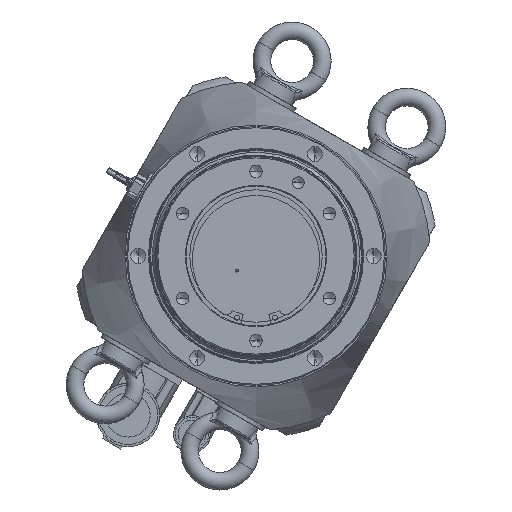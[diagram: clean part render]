
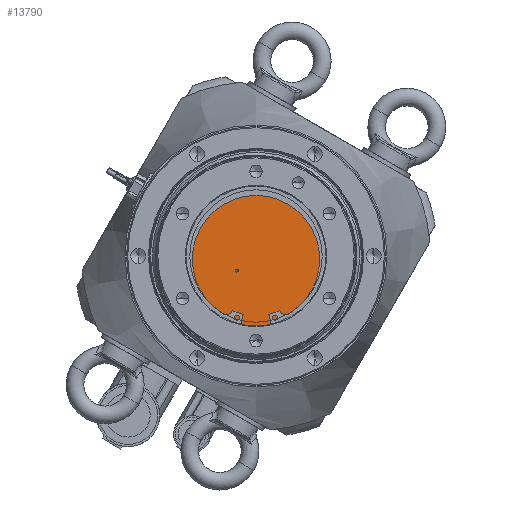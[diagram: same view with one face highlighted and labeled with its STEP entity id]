
A CAD part, front view. The second image highlights one B-rep face of the part: STEP entity #13790.
In plain terms, the highlighted planar face has unit normal (0, -1, 0).
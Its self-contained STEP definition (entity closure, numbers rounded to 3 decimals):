
#766 = DIRECTION ( 'NONE',  ( 0., 1., 0. ) ) ;
#1465 = AXIS2_PLACEMENT_3D ( 'NONE', #29761, #11636, #32782 ) ;
#1516 = EDGE_CURVE ( 'NONE', #25484, #36512, #12013, .T. ) ;
#1629 = DIRECTION ( 'NONE',  ( 0., 0., 1. ) ) ;
#1975 = EDGE_CURVE ( 'NONE', #32186, #28570, #21910, .T. ) ;
#3680 = PLANE ( 'NONE',  #8133 ) ;
#4519 = CARTESIAN_POINT ( 'NONE',  ( 42.239, -290.221, 123.416 ) ) ;
#4575 = FACE_BOUND ( 'NONE', #32065, .T. ) ;
#4656 = DIRECTION ( 'NONE',  ( 0., 1., 0. ) ) ;
#5935 = CARTESIAN_POINT ( 'NONE',  ( 55.209, -290.221, 134.409 ) ) ;
#6937 = EDGE_CURVE ( 'NONE', #36512, #25484, #27610, .T. ) ;
#7028 = ORIENTED_EDGE ( 'NONE', *, *, #1975, .T. ) ;
#8133 = AXIS2_PLACEMENT_3D ( 'NONE', #33981, #766, #21951 ) ;
#8999 = DIRECTION ( 'NONE',  ( 0., 0., 1. ) ) ;
#11636 = DIRECTION ( 'NONE',  ( 0., 1., 0. ) ) ;
#12013 = CIRCLE ( 'NONE', #13263, 47.5 ) ;
#12158 = AXIS2_PLACEMENT_3D ( 'NONE', #22784, #4656, #25803 ) ;
#12361 = ORIENTED_EDGE ( 'NONE', *, *, #1516, .F. ) ;
#13263 = AXIS2_PLACEMENT_3D ( 'NONE', #5935, #27075, #8999 ) ;
#13790 = ADVANCED_FACE ( 'NONE', ( #26795, #4575 ), #3680, .F. ) ;
#19152 = ORIENTED_EDGE ( 'NONE', *, *, #32488, .T. ) ;
#19765 = DIRECTION ( 'NONE',  ( 0., 1., 0. ) ) ;
#19879 = CIRCLE ( 'NONE', #12158, 1. ) ;
#21885 = AXIS2_PLACEMENT_3D ( 'NONE', #37862, #19765, #1629 ) ;
#21910 = CIRCLE ( 'NONE', #21885, 1. ) ;
#21951 = DIRECTION ( 'NONE',  ( 0., 0., 1. ) ) ;
#22784 = CARTESIAN_POINT ( 'NONE',  ( 42.239, -290.221, 124.416 ) ) ;
#25484 = VERTEX_POINT ( 'NONE', #35159 ) ;
#25803 = DIRECTION ( 'NONE',  ( 0., 0., 1. ) ) ;
#26795 = FACE_OUTER_BOUND ( 'NONE', #36737, .T. ) ;
#27075 = DIRECTION ( 'NONE',  ( 0., 1., 0. ) ) ;
#27610 = CIRCLE ( 'NONE', #1465, 47.5 ) ;
#28570 = VERTEX_POINT ( 'NONE', #35757 ) ;
#29761 = CARTESIAN_POINT ( 'NONE',  ( 55.209, -290.221, 134.409 ) ) ;
#30604 = ORIENTED_EDGE ( 'NONE', *, *, #6937, .F. ) ;
#32065 = EDGE_LOOP ( 'NONE', ( #7028, #19152 ) ) ;
#32186 = VERTEX_POINT ( 'NONE', #4519 ) ;
#32488 = EDGE_CURVE ( 'NONE', #28570, #32186, #19879, .T. ) ;
#32782 = DIRECTION ( 'NONE',  ( 0., 0., 1. ) ) ;
#33981 = CARTESIAN_POINT ( 'NONE',  ( 55.209, -290.221, 134.409 ) ) ;
#35159 = CARTESIAN_POINT ( 'NONE',  ( 55.209, -290.221, 181.909 ) ) ;
#35757 = CARTESIAN_POINT ( 'NONE',  ( 42.239, -290.221, 125.416 ) ) ;
#36512 = VERTEX_POINT ( 'NONE', #37660 ) ;
#36737 = EDGE_LOOP ( 'NONE', ( #30604, #12361 ) ) ;
#37660 = CARTESIAN_POINT ( 'NONE',  ( 55.209, -290.221, 86.909 ) ) ;
#37862 = CARTESIAN_POINT ( 'NONE',  ( 42.239, -290.221, 124.416 ) ) ;
